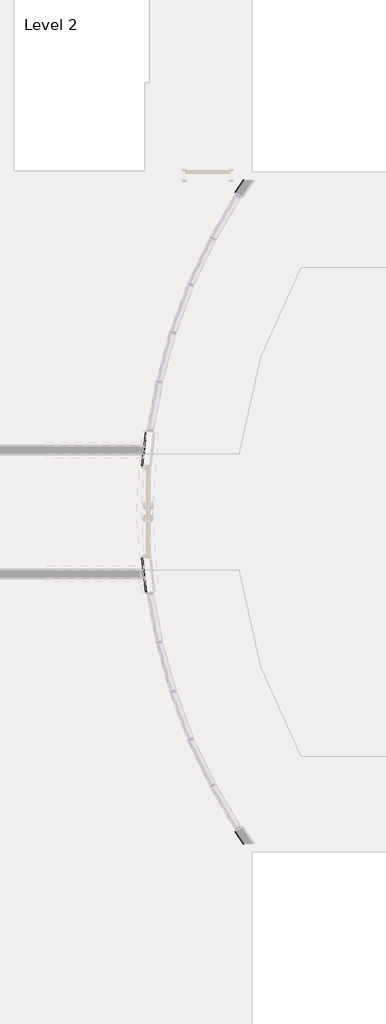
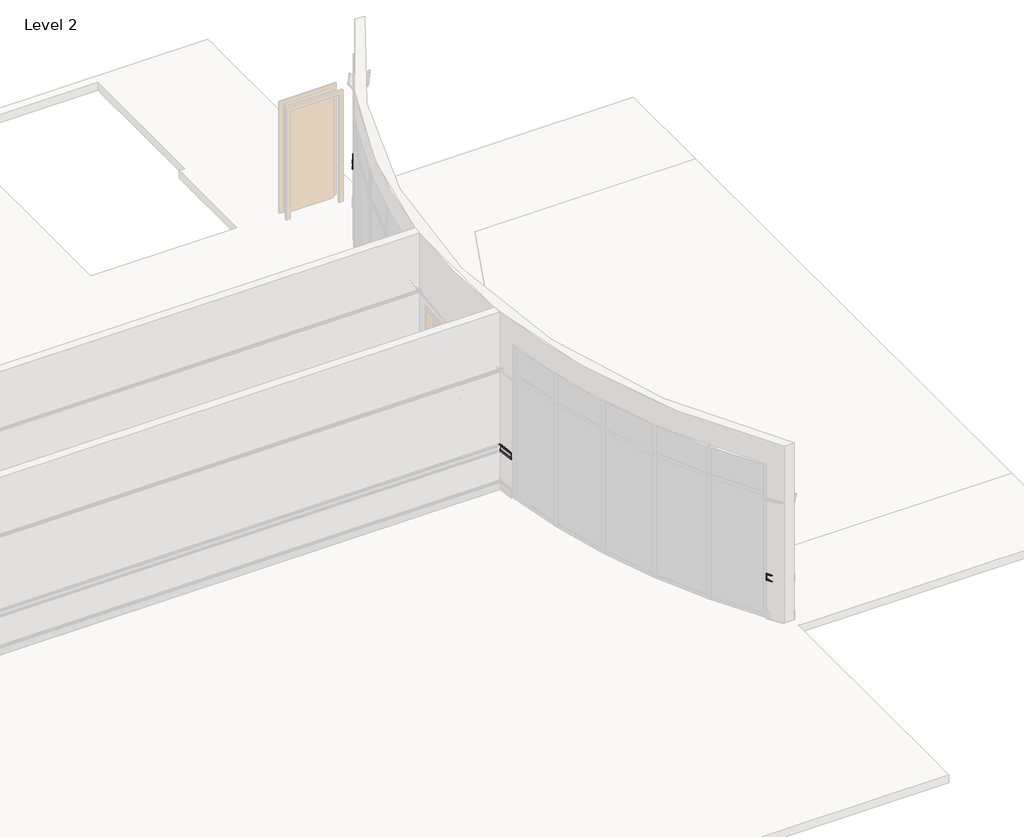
# One storey, part 11 of 14: 1 proxy.
"""IFC4 building model written with IfcOpenShell, lengths in millimetres."""

from ifc_helpers import new_model, si_unit, point, frame, origin, place, context, project, spatial, polyline, circle_curve, ellipse_curve, trimmed, element, save
from ifc_brep_helpers import plane_surface, cylinder_surface, revolved_surface, advanced_brep

model = new_model("IFC4")

# Units and contexts
model_context = context("Model", 3, world=origin())
ifc_project = project(units=[si_unit("LENGTHUNIT", "METRE", prefix="MILLI")], contexts=[model_context])

# Site, building, storey
site = spatial("IfcSite", under=ifc_project)
building = spatial("IfcBuilding", under=site)
storey = spatial("IfcBuildingStorey", under=building, Name="Level 2", Elevation=3657.6)

# Proxy
placement = place(None, origin())
element("IfcBuildingElementProxy", 1, Name="Wall Sweeps", at=placement, inside=storey, context=model_context, shape_type="AdvancedBrep", body=[
    advanced_brep(
    [(12531.4483746, -9207.1313595, 4438.65), (12532.7782615, -9206.2644357, 4437.0625), (12532.7782615, -9206.2644357, 4419.6), (12515.4897311, -9217.5344454, 4419.6), (12515.4897311, -9217.5344454, 4438.65), (12517.4845615, -9216.2340597, 4438.65), (12518.398731, -9215.6381328, 4444.9601121), (12521.6900333, -9213.4926058, 4453.73125), (12523.4690528, -9212.3329024, 4453.73125), (12523.4690528, -9212.3329024, 4525.16875), (12521.6900333, -9213.4926058, 4525.16875), (12518.398731, -9215.6381328, 4533.9398879), (12517.4845615, -9216.2340597, 4540.25), (12515.4897311, -9217.5344454, 4540.25), (12515.4897311, -9217.5344454, 4559.3), (12532.7782615, -9206.2644357, 4559.3), (12532.7782615, -9206.2644357, 4541.8375), (12531.4483746, -9207.1313595, 4540.25), (12707.4018476, -9469.5992739, 4438.65), (12707.4018476, -9469.5992739, 4540.25), (12708.7089721, -9468.6983956, 4541.8375), (12708.7089721, -9468.6983956, 4559.3), (12691.716353, -9480.4098132, 4559.3), (12691.716353, -9480.4098132, 4540.25), (12693.6770398, -9479.0584958, 4540.25), (12694.5755624, -9478.4392286, 4533.9398879), (12697.8105306, -9476.2096686, 4525.16875), (12699.5591003, -9475.0045436, 4525.16875), (12699.5591003, -9475.0045436, 4453.73125), (12697.8105306, -9476.2096686, 4453.73125), (12694.5755624, -9478.4392286, 4444.9601121), (12693.6770398, -9479.0584958, 4438.65), (12691.716353, -9480.4098132, 4438.65), (12691.716353, -9480.4098132, 4419.6), (12708.7089721, -9468.6983956, 4419.6), (12708.7089721, -9468.6983956, 4437.0625)],
    [
        (0, 1),
        (1, 2),
        (2, 3),
        (3, 4),
        (4, 5),
        (5, 6, circle_curve(frame((12521.6900333, -9213.4926058, 4441.03125), z_axis=(-0.5460937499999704, 0.8377240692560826, 0.0), x_axis=(-0.8377240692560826, -0.5460937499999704, 0.0)), 5.55625)),
        (6, 7, circle_curve(frame((12511.875522, -9219.8904682, 4453.7135672), z_axis=(0.5460937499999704, -0.8377240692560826, 0.0), x_axis=(-0.8377240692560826, -0.5460937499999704, 0.0)), 11.7156984)),
        (7, 8),
        (8, 9),
        (9, 10),
        (10, 11, circle_curve(frame((12511.875522, -9219.8904682, 4525.1864328), z_axis=(0.5460937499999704, -0.8377240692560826, 0.0), x_axis=(-0.8377240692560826, -0.5460937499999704, 0.0)), 11.7156984)),
        (11, 12, circle_curve(frame((12521.6900333, -9213.4926058, 4537.86875), z_axis=(-0.5460937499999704, 0.8377240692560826, 0.0), x_axis=(-0.8377240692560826, -0.5460937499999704, 0.0)), 5.55625)),
        (12, 13),
        (13, 14),
        (14, 15),
        (15, 16),
        (16, 17),
        (17, 0),
        (18, 19),
        (19, 20),
        (20, 21),
        (21, 22),
        (22, 23),
        (23, 24),
        (24, 25, circle_curve(frame((12697.8105306, -9476.2096686, 4537.86875), z_axis=(0.5674823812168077, -0.8233855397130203, 0.0), x_axis=(-0.8233855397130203, -0.5674823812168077, 0.0)), 5.55625)),
        (25, 26, circle_curve(frame((12688.1640049, -9482.8581134, 4525.1864328), z_axis=(-0.5674823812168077, 0.8233855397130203, 0.0), x_axis=(-0.8233855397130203, -0.5674823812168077, 0.0)), 11.7156984)),
        (26, 27),
        (27, 28),
        (28, 29),
        (29, 30, circle_curve(frame((12688.1640049, -9482.8581134, 4453.7135672), z_axis=(-0.5674823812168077, 0.8233855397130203, 0.0), x_axis=(-0.8233855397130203, -0.5674823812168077, 0.0)), 11.7156984)),
        (30, 31, circle_curve(frame((12697.8105306, -9476.2096686, 4441.03125), z_axis=(0.5674823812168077, -0.8233855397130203, 0.0), x_axis=(-0.8233855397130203, -0.5674823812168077, 0.0)), 5.55625)),
        (31, 32),
        (32, 33),
        (33, 34),
        (34, 35),
        (35, 18),
        (35, 1, circle_curve(frame((22811.474575, -2505.8101681, 4437.0625), z_axis=(0.0, 0.0, -1.0), x_axis=(-0.837724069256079, -0.5460937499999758, 0.0)), 12269.7875)),
        (0, 18, circle_curve(frame((22811.474575, -2505.8101681, 4438.65), z_axis=(0.0, 0.0, 1.0), x_axis=(-0.837724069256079, -0.5460937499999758, 0.0)), 12271.375)),
        (34, 2, circle_curve(frame((22811.474575, -2505.8101681, 4419.6), z_axis=(0.0, 0.0, -1.0), x_axis=(-0.837724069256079, -0.5460937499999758, 0.0)), 12269.7875)),
        (33, 3, circle_curve(frame((22811.474575, -2505.8101681, 4419.6), z_axis=(0.0, 0.0, -1.0), x_axis=(-0.837724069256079, -0.5460937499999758, 0.0)), 12290.425)),
        (32, 4, circle_curve(frame((22811.474575, -2505.8101681, 4438.65), z_axis=(0.0, 0.0, -1.0), x_axis=(-0.837724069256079, -0.5460937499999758, 0.0)), 12290.425)),
        (31, 5, circle_curve(frame((22811.474575, -2505.8101681, 4438.65), z_axis=(0.0, 0.0, -1.0), x_axis=(-0.837724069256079, -0.5460937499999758, 0.0)), 12288.04375)),
        (30, 6, circle_curve(frame((22811.474575, -2505.8101681, 4444.9601121), z_axis=(0.0, 0.0, -1.0), x_axis=(-0.837724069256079, -0.5460937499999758, 0.0)), 12286.9524963)),
        (29, 7, circle_curve(frame((22811.474575, -2505.8101681, 4453.73125), z_axis=(0.0, 0.0, -1.0), x_axis=(-0.837724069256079, -0.5460937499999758, 0.0)), 12283.0236342)),
        (28, 8, circle_curve(frame((22811.474575, -2505.8101681, 4453.73125), z_axis=(0.0, 0.0, -1.0), x_axis=(-0.837724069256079, -0.5460937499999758, 0.0)), 12280.9)),
        (27, 9, circle_curve(frame((22811.474575, -2505.8101681, 4525.16875), z_axis=(0.0, 0.0, -1.0), x_axis=(-0.837724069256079, -0.5460937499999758, 0.0)), 12280.9)),
        (26, 10, circle_curve(frame((22811.474575, -2505.8101681, 4525.16875), z_axis=(0.0, 0.0, -1.0), x_axis=(-0.837724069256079, -0.5460937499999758, 0.0)), 12283.0236342)),
        (25, 11, circle_curve(frame((22811.474575, -2505.8101681, 4533.9398879), z_axis=(0.0, 0.0, -1.0), x_axis=(-0.837724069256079, -0.5460937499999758, 0.0)), 12286.9524963)),
        (24, 12, circle_curve(frame((22811.474575, -2505.8101681, 4540.25), z_axis=(0.0, 0.0, -1.0), x_axis=(-0.837724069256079, -0.5460937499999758, 0.0)), 12288.04375)),
        (23, 13, circle_curve(frame((22811.474575, -2505.8101681, 4540.25), z_axis=(0.0, 0.0, -1.0), x_axis=(-0.837724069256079, -0.5460937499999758, 0.0)), 12290.425)),
        (22, 14, circle_curve(frame((22811.474575, -2505.8101681, 4559.3), z_axis=(0.0, 0.0, -1.0), x_axis=(-0.837724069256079, -0.5460937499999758, 0.0)), 12290.425)),
        (21, 15, circle_curve(frame((22811.474575, -2505.8101681, 4559.3), z_axis=(0.0, 0.0, -1.0), x_axis=(-0.837724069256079, -0.5460937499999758, 0.0)), 12269.7875)),
        (20, 16, circle_curve(frame((22811.474575, -2505.8101681, 4541.8375), z_axis=(0.0, 0.0, -1.0), x_axis=(-0.837724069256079, -0.5460937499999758, 0.0)), 12269.7875)),
        (19, 17, circle_curve(frame((22811.474575, -2505.8101681, 4540.25), z_axis=(0.0, 0.0, -1.0), x_axis=(-0.837724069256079, -0.5460937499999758, 0.0)), 12271.375)),
    ],
    [
        plane_surface(frame((22811.474575, -2505.8101681, 4419.6), z_axis=(-0.5460937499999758, 0.837724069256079, 0.0), x_axis=(-0.837724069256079, -0.5460937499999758, 0.0))),
        plane_surface(frame((22811.474575, -2505.8101681, 4419.6), z_axis=(0.5674823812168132, -0.8233855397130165, 0.0), x_axis=(-0.8233855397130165, -0.5674823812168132, 0.0))),
        revolved_surface(polyline([(12531.4483746, -9207.1313595, 4438.65), (12532.7782615, -9206.2644357, 4437.0625)]), (22811.474575, -2505.8101681, 4419.6), (0.0, 0.0, 1.0)),
        revolved_surface(polyline([(12532.778261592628, -9206.26443567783, 4437.0625), (12532.778261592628, -9206.26443567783, 4419.6)]), (22811.474575, -2505.8101681, 4419.6), (0.0, 0.0, 1.0)),
        plane_surface(frame((22811.474575, -2505.8101681, 4419.6), z_axis=(0.0, 0.0, -1.0), x_axis=(-0.837724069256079, -0.5460937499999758, 0.0))),
        cylinder_surface(frame((22811.474575, -2505.8101681, 4419.6), z_axis=(0.0, 0.0, 1.0), x_axis=(-0.837724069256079, -0.5460937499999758, 0.0)), 12290.425),
        plane_surface(frame((22811.474575, -2505.8101681, 4438.65), z_axis=(0.0, 0.0, 1.0), x_axis=(-0.837724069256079, -0.5460937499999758, 0.0))),
        revolved_surface(trimmed(ellipse_curve(frame((12521.6900333, -9213.4926058, 4441.03125), z_axis=(-0.5460937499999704, 0.8377240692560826, 0.0), x_axis=(-0.8377240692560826, -0.5460937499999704, 0.0)), 5.55625, 5.55625), [point((12517.4845615, -9216.2340597, 4438.65))], [point((12518.398731, -9215.6381328, 4444.9601121))], True, "CARTESIAN"), (22811.474575, -2505.8101681, 4419.6), (0.0, 0.0, 1.0)),
        revolved_surface(trimmed(ellipse_curve(frame((12511.875522, -9219.8904682, 4453.7135672), z_axis=(0.5460937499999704, -0.8377240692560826, 0.0), x_axis=(-0.8377240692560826, -0.5460937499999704, 0.0)), 11.7156984, 11.7156984), [point((12518.398731, -9215.6381328, 4444.9601121))], [point((12521.6900333, -9213.4926058, 4453.73125))], True, "CARTESIAN"), (22811.474575, -2505.8101681, 4419.6), (0.0, 0.0, 1.0)),
        plane_surface(frame((22811.474575, -2505.8101681, 4453.73125), z_axis=(0.0, 0.0, 1.0), x_axis=(-0.837724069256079, -0.5460937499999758, 0.0))),
        cylinder_surface(frame((22811.474575, -2505.8101681, 4419.6), z_axis=(0.0, 0.0, 1.0), x_axis=(-0.837724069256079, -0.5460937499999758, 0.0)), 12280.9),
        plane_surface(frame((22811.474575, -2505.8101681, 4525.16875), z_axis=(0.0, 0.0, -1.0), x_axis=(-0.837724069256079, -0.5460937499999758, 0.0))),
        revolved_surface(trimmed(ellipse_curve(frame((12511.875522, -9219.8904682, 4525.1864328), z_axis=(0.5460937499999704, -0.8377240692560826, 0.0), x_axis=(-0.8377240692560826, -0.5460937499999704, 0.0)), 11.7156984, 11.7156984), [point((12521.6900333, -9213.4926058, 4525.16875))], [point((12518.398731, -9215.6381328, 4533.9398879))], True, "CARTESIAN"), (22811.474575, -2505.8101681, 4419.6), (0.0, 0.0, 1.0)),
        revolved_surface(trimmed(ellipse_curve(frame((12521.6900333, -9213.4926058, 4537.86875), z_axis=(-0.5460937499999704, 0.8377240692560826, 0.0), x_axis=(-0.8377240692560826, -0.5460937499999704, 0.0)), 5.55625, 5.55625), [point((12518.398731, -9215.6381328, 4533.9398879))], [point((12517.4845615, -9216.2340597, 4540.25))], True, "CARTESIAN"), (22811.474575, -2505.8101681, 4419.6), (0.0, 0.0, 1.0)),
        plane_surface(frame((22811.474575, -2505.8101681, 4540.25), z_axis=(0.0, 0.0, -1.0), x_axis=(-0.837724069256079, -0.5460937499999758, 0.0))),
        plane_surface(frame((22811.474575, -2505.8101681, 4559.3), z_axis=(0.0, 0.0, 1.0), x_axis=(-0.837724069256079, -0.5460937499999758, 0.0))),
        revolved_surface(polyline([(12532.778261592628, -9206.26443567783, 4559.3), (12532.778261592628, -9206.26443567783, 4541.8375)]), (22811.474575, -2505.8101681, 4419.6), (0.0, 0.0, 1.0)),
        revolved_surface(polyline([(12532.7782615, -9206.2644357, 4541.8375), (12531.4483746, -9207.1313595, 4540.25)]), (22811.474575, -2505.8101681, 4419.6), (0.0, 0.0, 1.0)),
        revolved_surface(polyline([(12531.448374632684, -9207.131359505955, 4540.25), (12531.448374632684, -9207.131359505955, 4438.65)]), (22811.474575, -2505.8101681, 4419.6), (0.0, 0.0, 1.0)),
    ],
    [
        (0, [[1, 2, 3, 4, 5, 6, 7, 8, 9, 10, 11, 12, 13, 14, 15, 16, 17, 18]]),
        (1, [[19, 20, 21, 22, 23, 24, 25, 26, 27, 28, 29, 30, 31, 32, 33, 34, 35, 36]]),
        (2, [[37, -1, 38, -36]]),
        (3, [[39, -2, -37, -35]]),
        (4, [[40, -3, -39, -34]]),
        (5, [[41, -4, -40, -33]]),
        (6, [[42, -5, -41, -32]]),
        (7, [[43, -6, -42, -31]]),
        (8, [[44, -7, -43, -30]]),
        (9, [[45, -8, -44, -29]]),
        (10, [[46, -9, -45, -28]]),
        (11, [[47, -10, -46, -27]]),
        (12, [[48, -11, -47, -26]]),
        (13, [[49, -12, -48, -25]]),
        (14, [[50, -13, -49, -24]]),
        (5, [[51, -14, -50, -23]]),
        (15, [[52, -15, -51, -22]]),
        (16, [[53, -16, -52, -21]]),
        (17, [[54, -17, -53, -20]]),
        (18, [[-38, -18, -54, -19]]),
    ],
),
    advanced_brep(
    [(10578.1270255, -3471.1350484, 4438.65), (10579.709606, -3471.0101681, 4437.0625), (10579.709606, -3471.0101681, 4419.6), (10559.136059, -3472.6336122, 4419.6), (10559.136059, -3472.6336122, 4438.65), (10561.5099299, -3472.4462918, 4438.65), (10562.5978019, -3472.3604485, 4444.9601121), (10566.5144889, -3472.0513855, 4453.73125), (10568.6315423, -3471.8843303, 4453.73125), (10568.6315423, -3471.8843303, 4525.16875), (10566.5144889, -3472.0513855, 4525.16875), (10562.5978019, -3472.3604485, 4533.9398879), (10561.5099299, -3472.4462918, 4540.25), (10559.136059, -3472.6336122, 4540.25), (10559.136059, -3472.6336122, 4559.3), (10579.709606, -3471.0101681, 4559.3), (10579.709606, -3471.0101681, 4541.8375), (10578.1270255, -3471.1350484, 4540.25), (10657.1000031, -4196.3199011, 4438.65), (10657.1000031, -4196.3199011, 4540.25), (10658.6723672, -4196.1012065, 4541.8375), (10658.6723672, -4196.1012065, 4559.3), (10638.2316338, -4198.9442371, 4559.3), (10638.2316338, -4198.9442371, 4540.25), (10640.5901799, -4198.6161951, 4540.25), (10641.6710292, -4198.4658635, 4533.9398879), (10645.5624318, -4197.9246218, 4525.16875), (10647.6658184, -4197.6320691, 4525.16875), (10647.6658184, -4197.6320691, 4453.73125), (10645.5624318, -4197.9246218, 4453.73125), (10641.6710292, -4198.4658635, 4444.9601121), (10640.5901799, -4198.6161951, 4438.65), (10638.2316338, -4198.9442371, 4438.65), (10638.2316338, -4198.9442371, 4419.6), (10658.6723672, -4196.1012065, 4419.6), (10658.6723672, -4196.1012065, 4437.0625)],
    [
        (0, 1),
        (1, 2),
        (2, 3),
        (3, 4),
        (4, 5),
        (5, 6, circle_curve(frame((10566.5144889, -3472.0513855, 4441.03125), z_axis=(-0.0786647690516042, 0.9969011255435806, 0.0), x_axis=(-0.9969011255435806, -0.0786647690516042, 0.0)), 5.55625)),
        (6, 7, circle_curve(frame((10554.8351093, -3472.9729972, 4453.7135672), z_axis=(0.0786647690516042, -0.9969011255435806, 0.0), x_axis=(-0.9969011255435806, -0.0786647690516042, 0.0)), 11.7156984)),
        (7, 8),
        (8, 9),
        (9, 10),
        (10, 11, circle_curve(frame((10554.8351093, -3472.9729972, 4525.1864328), z_axis=(0.0786647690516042, -0.9969011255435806, 0.0), x_axis=(-0.9969011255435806, -0.0786647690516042, 0.0)), 11.7156984)),
        (11, 12, circle_curve(frame((10566.5144889, -3472.0513855, 4537.86875), z_axis=(-0.0786647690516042, 0.9969011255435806, 0.0), x_axis=(-0.9969011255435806, -0.0786647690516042, 0.0)), 5.55625)),
        (12, 13),
        (13, 14),
        (14, 15),
        (15, 16),
        (16, 17),
        (17, 0),
        (18, 19),
        (19, 20),
        (20, 21),
        (21, 22),
        (22, 23),
        (23, 24),
        (24, 25, circle_curve(frame((10645.5624318, -4197.9246218, 4537.86875), z_axis=(0.13776041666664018, -0.990465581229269, 0.0), x_axis=(-0.990465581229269, -0.13776041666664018, 0.0)), 5.55625)),
        (25, 26, circle_curve(frame((10633.958449, -4199.5385795, 4525.1864328), z_axis=(-0.13776041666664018, 0.990465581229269, 0.0), x_axis=(-0.990465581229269, -0.13776041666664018, 0.0)), 11.7156984)),
        (26, 27),
        (27, 28),
        (28, 29),
        (29, 30, circle_curve(frame((10633.958449, -4199.5385795, 4453.7135672), z_axis=(-0.13776041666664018, 0.990465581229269, 0.0), x_axis=(-0.990465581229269, -0.13776041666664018, 0.0)), 11.7156984)),
        (30, 31, circle_curve(frame((10645.5624318, -4197.9246218, 4441.03125), z_axis=(0.13776041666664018, -0.990465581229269, 0.0), x_axis=(-0.990465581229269, -0.13776041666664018, 0.0)), 5.55625)),
        (31, 32),
        (32, 33),
        (33, 34),
        (34, 35),
        (35, 18),
        (35, 1, circle_curve(frame((22811.474575, -2505.8101681, 4437.0625), z_axis=(0.0, 0.0, -1.0), x_axis=(-0.99690112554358, -0.07866476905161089, 0.0)), 12269.7875)),
        (0, 18, circle_curve(frame((22811.474575, -2505.8101681, 4438.65), z_axis=(0.0, 0.0, 1.0), x_axis=(-0.99690112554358, -0.07866476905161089, 0.0)), 12271.375)),
        (34, 2, circle_curve(frame((22811.474575, -2505.8101681, 4419.6), z_axis=(0.0, 0.0, -1.0), x_axis=(-0.99690112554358, -0.07866476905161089, 0.0)), 12269.7875)),
        (33, 3, circle_curve(frame((22811.474575, -2505.8101681, 4419.6), z_axis=(0.0, 0.0, -1.0), x_axis=(-0.99690112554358, -0.07866476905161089, 0.0)), 12290.425)),
        (32, 4, circle_curve(frame((22811.474575, -2505.8101681, 4438.65), z_axis=(0.0, 0.0, -1.0), x_axis=(-0.99690112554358, -0.07866476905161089, 0.0)), 12290.425)),
        (31, 5, circle_curve(frame((22811.474575, -2505.8101681, 4438.65), z_axis=(0.0, 0.0, -1.0), x_axis=(-0.99690112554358, -0.07866476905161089, 0.0)), 12288.04375)),
        (30, 6, circle_curve(frame((22811.474575, -2505.8101681, 4444.9601121), z_axis=(0.0, 0.0, -1.0), x_axis=(-0.99690112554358, -0.07866476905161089, 0.0)), 12286.9524963)),
        (29, 7, circle_curve(frame((22811.474575, -2505.8101681, 4453.73125), z_axis=(0.0, 0.0, -1.0), x_axis=(-0.99690112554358, -0.07866476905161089, 0.0)), 12283.0236342)),
        (28, 8, circle_curve(frame((22811.474575, -2505.8101681, 4453.73125), z_axis=(0.0, 0.0, -1.0), x_axis=(-0.99690112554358, -0.07866476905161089, 0.0)), 12280.9)),
        (27, 9, circle_curve(frame((22811.474575, -2505.8101681, 4525.16875), z_axis=(0.0, 0.0, -1.0), x_axis=(-0.99690112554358, -0.07866476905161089, 0.0)), 12280.9)),
        (26, 10, circle_curve(frame((22811.474575, -2505.8101681, 4525.16875), z_axis=(0.0, 0.0, -1.0), x_axis=(-0.99690112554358, -0.07866476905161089, 0.0)), 12283.0236342)),
        (25, 11, circle_curve(frame((22811.474575, -2505.8101681, 4533.9398879), z_axis=(0.0, 0.0, -1.0), x_axis=(-0.99690112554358, -0.07866476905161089, 0.0)), 12286.9524963)),
        (24, 12, circle_curve(frame((22811.474575, -2505.8101681, 4540.25), z_axis=(0.0, 0.0, -1.0), x_axis=(-0.99690112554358, -0.07866476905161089, 0.0)), 12288.04375)),
        (23, 13, circle_curve(frame((22811.474575, -2505.8101681, 4540.25), z_axis=(0.0, 0.0, -1.0), x_axis=(-0.99690112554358, -0.07866476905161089, 0.0)), 12290.425)),
        (22, 14, circle_curve(frame((22811.474575, -2505.8101681, 4559.3), z_axis=(0.0, 0.0, -1.0), x_axis=(-0.99690112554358, -0.07866476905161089, 0.0)), 12290.425)),
        (21, 15, circle_curve(frame((22811.474575, -2505.8101681, 4559.3), z_axis=(0.0, 0.0, -1.0), x_axis=(-0.99690112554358, -0.07866476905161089, 0.0)), 12269.7875)),
        (20, 16, circle_curve(frame((22811.474575, -2505.8101681, 4541.8375), z_axis=(0.0, 0.0, -1.0), x_axis=(-0.99690112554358, -0.07866476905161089, 0.0)), 12269.7875)),
        (19, 17, circle_curve(frame((22811.474575, -2505.8101681, 4540.25), z_axis=(0.0, 0.0, -1.0), x_axis=(-0.99690112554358, -0.07866476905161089, 0.0)), 12271.375)),
    ],
    [
        plane_surface(frame((22811.474575, -2505.8101681, 4419.6), z_axis=(-0.07866476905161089, 0.99690112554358, 0.0), x_axis=(-0.99690112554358, -0.07866476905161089, 0.0))),
        plane_surface(frame((22811.474575, -2505.8101681, 4419.6), z_axis=(0.1377604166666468, -0.9904655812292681, 0.0), x_axis=(-0.9904655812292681, -0.1377604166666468, 0.0))),
        revolved_surface(polyline([(10578.1270255, -3471.1350484, 4438.65), (10579.709606, -3471.0101681, 4437.0625)]), (22811.474575, -2505.8101681, 4419.6), (0.0, 0.0, 1.0)),
        revolved_surface(polyline([(10579.709606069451, -3471.0101680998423, 4437.0625), (10579.709606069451, -3471.0101680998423, 4419.6)]), (22811.474575, -2505.8101681, 4419.6), (0.0, 0.0, 1.0)),
        plane_surface(frame((22811.474575, -2505.8101681, 4419.6), z_axis=(0.0, 0.0, -1.0), x_axis=(-0.99690112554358, -0.07866476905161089, 0.0))),
        cylinder_surface(frame((22811.474575, -2505.8101681, 4419.6), z_axis=(0.0, 0.0, 1.0), x_axis=(-0.99690112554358, -0.07866476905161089, 0.0)), 12290.425),
        plane_surface(frame((22811.474575, -2505.8101681, 4438.65), z_axis=(0.0, 0.0, 1.0), x_axis=(-0.99690112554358, -0.07866476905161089, 0.0))),
        revolved_surface(trimmed(ellipse_curve(frame((10566.5144889, -3472.0513855, 4441.03125), z_axis=(-0.0786647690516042, 0.9969011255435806, 0.0), x_axis=(-0.9969011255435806, -0.0786647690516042, 0.0)), 5.55625, 5.55625), [point((10561.5099299, -3472.4462918, 4438.65))], [point((10562.5978019, -3472.3604485, 4444.9601121))], True, "CARTESIAN"), (22811.474575, -2505.8101681, 4419.6), (0.0, 0.0, 1.0)),
        revolved_surface(trimmed(ellipse_curve(frame((10554.8351093, -3472.9729972, 4453.7135672), z_axis=(0.0786647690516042, -0.9969011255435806, 0.0), x_axis=(-0.9969011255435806, -0.0786647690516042, 0.0)), 11.7156984, 11.7156984), [point((10562.5978019, -3472.3604485, 4444.9601121))], [point((10566.5144889, -3472.0513855, 4453.73125))], True, "CARTESIAN"), (22811.474575, -2505.8101681, 4419.6), (0.0, 0.0, 1.0)),
        plane_surface(frame((22811.474575, -2505.8101681, 4453.73125), z_axis=(0.0, 0.0, 1.0), x_axis=(-0.99690112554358, -0.07866476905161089, 0.0))),
        cylinder_surface(frame((22811.474575, -2505.8101681, 4419.6), z_axis=(0.0, 0.0, 1.0), x_axis=(-0.99690112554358, -0.07866476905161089, 0.0)), 12280.9),
        plane_surface(frame((22811.474575, -2505.8101681, 4525.16875), z_axis=(0.0, 0.0, -1.0), x_axis=(-0.99690112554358, -0.07866476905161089, 0.0))),
        revolved_surface(trimmed(ellipse_curve(frame((10554.8351093, -3472.9729972, 4525.1864328), z_axis=(0.0786647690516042, -0.9969011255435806, 0.0), x_axis=(-0.9969011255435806, -0.0786647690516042, 0.0)), 11.7156984, 11.7156984), [point((10566.5144889, -3472.0513855, 4525.16875))], [point((10562.5978019, -3472.3604485, 4533.9398879))], True, "CARTESIAN"), (22811.474575, -2505.8101681, 4419.6), (0.0, 0.0, 1.0)),
        revolved_surface(trimmed(ellipse_curve(frame((10566.5144889, -3472.0513855, 4537.86875), z_axis=(-0.0786647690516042, 0.9969011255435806, 0.0), x_axis=(-0.9969011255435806, -0.0786647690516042, 0.0)), 5.55625, 5.55625), [point((10562.5978019, -3472.3604485, 4533.9398879))], [point((10561.5099299, -3472.4462918, 4540.25))], True, "CARTESIAN"), (22811.474575, -2505.8101681, 4419.6), (0.0, 0.0, 1.0)),
        plane_surface(frame((22811.474575, -2505.8101681, 4540.25), z_axis=(0.0, 0.0, -1.0), x_axis=(-0.99690112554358, -0.07866476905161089, 0.0))),
        plane_surface(frame((22811.474575, -2505.8101681, 4559.3), z_axis=(0.0, 0.0, 1.0), x_axis=(-0.99690112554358, -0.07866476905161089, 0.0))),
        revolved_surface(polyline([(10579.709606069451, -3471.0101680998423, 4559.3), (10579.709606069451, -3471.0101680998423, 4541.8375)]), (22811.474575, -2505.8101681, 4419.6), (0.0, 0.0, 1.0)),
        revolved_surface(polyline([(10579.709606, -3471.0101681, 4541.8375), (10578.1270255, -3471.1350484, 4540.25)]), (22811.474575, -2505.8101681, 4419.6), (0.0, 0.0, 1.0)),
        revolved_surface(polyline([(10578.12702553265, -3471.1350484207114, 4540.25), (10578.12702553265, -3471.1350484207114, 4438.65)]), (22811.474575, -2505.8101681, 4419.6), (0.0, 0.0, 1.0)),
    ],
    [
        (0, [[1, 2, 3, 4, 5, 6, 7, 8, 9, 10, 11, 12, 13, 14, 15, 16, 17, 18]]),
        (1, [[19, 20, 21, 22, 23, 24, 25, 26, 27, 28, 29, 30, 31, 32, 33, 34, 35, 36]]),
        (2, [[37, -1, 38, -36]]),
        (3, [[39, -2, -37, -35]]),
        (4, [[40, -3, -39, -34]]),
        (5, [[41, -4, -40, -33]]),
        (6, [[42, -5, -41, -32]]),
        (7, [[43, -6, -42, -31]]),
        (8, [[44, -7, -43, -30]]),
        (9, [[45, -8, -44, -29]]),
        (10, [[46, -9, -45, -28]]),
        (11, [[47, -10, -46, -27]]),
        (12, [[48, -11, -47, -26]]),
        (13, [[49, -12, -48, -25]]),
        (14, [[50, -13, -49, -24]]),
        (5, [[51, -14, -50, -23]]),
        (15, [[52, -15, -51, -22]]),
        (16, [[53, -16, -52, -21]]),
        (17, [[54, -17, -53, -20]]),
        (18, [[-38, -18, -54, -19]]),
    ],
),
    advanced_brep(
    [(10657.1000031, -815.300435, 4438.65), (10658.6723672, -815.5191297, 4437.0625), (10658.6723672, -815.5191297, 4419.6), (10638.2316338, -812.6760991, 4419.6), (10638.2316338, -812.6760991, 4438.65), (10640.5901799, -813.0041411, 4438.65), (10641.6710292, -813.1544726, 4444.9601121), (10645.5624318, -813.6957143, 4453.73125), (10647.6658184, -813.988267, 4453.73125), (10647.6658184, -813.988267, 4525.16875), (10645.5624318, -813.6957143, 4525.16875), (10641.6710292, -813.1544726, 4533.9398879), (10640.5901799, -813.0041411, 4540.25), (10638.2316338, -812.6760991, 4540.25), (10638.2316338, -812.6760991, 4559.3), (10658.6723672, -815.5191297, 4559.3), (10658.6723672, -815.5191297, 4541.8375), (10657.1000031, -815.300435, 4540.25), (10578.1270255, -1540.4852878, 4438.65), (10578.1270255, -1540.4852878, 4540.25), (10579.709606, -1540.6101681, 4541.8375), (10579.709606, -1540.6101681, 4559.3), (10559.136059, -1538.9867239, 4559.3), (10559.136059, -1538.9867239, 4540.25), (10561.5099299, -1539.1740444, 4540.25), (10562.5978019, -1539.2598876, 4533.9398879), (10566.5144889, -1539.5689506, 4525.16875), (10568.6315423, -1539.7360058, 4525.16875), (10568.6315423, -1539.7360058, 4453.73125), (10566.5144889, -1539.5689506, 4453.73125), (10562.5978019, -1539.2598876, 4444.9601121), (10561.5099299, -1539.1740444, 4438.65), (10559.136059, -1538.9867239, 4438.65), (10559.136059, -1538.9867239, 4419.6), (10579.709606, -1540.6101681, 4419.6), (10579.709606, -1540.6101681, 4437.0625)],
    [
        (0, 1),
        (1, 2),
        (2, 3),
        (3, 4),
        (4, 5),
        (5, 6, circle_curve(frame((10645.5624318, -813.6957143, 4441.03125), z_axis=(0.13776041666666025, 0.9904655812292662, 0.0), x_axis=(-0.9904655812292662, 0.13776041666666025, 0.0)), 5.55625)),
        (6, 7, circle_curve(frame((10633.958449, -812.0817566, 4453.7135672), z_axis=(-0.13776041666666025, -0.9904655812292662, 0.0), x_axis=(-0.9904655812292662, 0.13776041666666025, 0.0)), 11.7156984)),
        (7, 8),
        (8, 9),
        (9, 10),
        (10, 11, circle_curve(frame((10633.958449, -812.0817566, 4525.1864328), z_axis=(-0.13776041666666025, -0.9904655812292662, 0.0), x_axis=(-0.9904655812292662, 0.13776041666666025, 0.0)), 11.7156984)),
        (11, 12, circle_curve(frame((10645.5624318, -813.6957143, 4537.86875), z_axis=(0.13776041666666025, 0.9904655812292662, 0.0), x_axis=(-0.9904655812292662, 0.13776041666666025, 0.0)), 5.55625)),
        (12, 13),
        (13, 14),
        (14, 15),
        (15, 16),
        (16, 17),
        (17, 0),
        (18, 19),
        (19, 20),
        (20, 21),
        (21, 22),
        (22, 23),
        (23, 24),
        (24, 25, circle_curve(frame((10566.5144889, -1539.5689506, 4537.86875), z_axis=(-0.07866476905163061, -0.9969011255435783, 0.0), x_axis=(-0.9969011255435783, 0.07866476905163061, 0.0)), 5.55625)),
        (25, 26, circle_curve(frame((10554.8351093, -1538.647339, 4525.1864328), z_axis=(0.07866476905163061, 0.9969011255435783, 0.0), x_axis=(-0.9969011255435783, 0.07866476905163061, 0.0)), 11.7156984)),
        (26, 27),
        (27, 28),
        (28, 29),
        (29, 30, circle_curve(frame((10554.8351093, -1538.647339, 4453.7135672), z_axis=(0.07866476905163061, 0.9969011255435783, 0.0), x_axis=(-0.9969011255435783, 0.07866476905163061, 0.0)), 11.7156984)),
        (30, 31, circle_curve(frame((10566.5144889, -1539.5689506, 4441.03125), z_axis=(-0.07866476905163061, -0.9969011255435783, 0.0), x_axis=(-0.9969011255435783, 0.07866476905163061, 0.0)), 5.55625)),
        (31, 32),
        (32, 33),
        (33, 34),
        (34, 35),
        (35, 18),
        (35, 1, circle_curve(frame((22811.474575, -2505.8101681, 4437.0625), z_axis=(0.0, 0.0, -1.0), x_axis=(-0.9904655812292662, 0.13776041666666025, 0.0)), 12269.7875)),
        (0, 18, circle_curve(frame((22811.474575, -2505.8101681, 4438.65), z_axis=(0.0, 0.0, 1.0), x_axis=(-0.9904655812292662, 0.13776041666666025, 0.0)), 12271.375)),
        (34, 2, circle_curve(frame((22811.474575, -2505.8101681, 4419.6), z_axis=(0.0, 0.0, -1.0), x_axis=(-0.9904655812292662, 0.13776041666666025, 0.0)), 12269.7875)),
        (33, 3, circle_curve(frame((22811.474575, -2505.8101681, 4419.6), z_axis=(0.0, 0.0, -1.0), x_axis=(-0.9904655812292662, 0.13776041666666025, 0.0)), 12290.425)),
        (32, 4, circle_curve(frame((22811.474575, -2505.8101681, 4438.65), z_axis=(0.0, 0.0, -1.0), x_axis=(-0.9904655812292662, 0.13776041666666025, 0.0)), 12290.425)),
        (31, 5, circle_curve(frame((22811.474575, -2505.8101681, 4438.65), z_axis=(0.0, 0.0, -1.0), x_axis=(-0.9904655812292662, 0.13776041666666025, 0.0)), 12288.04375)),
        (30, 6, circle_curve(frame((22811.474575, -2505.8101681, 4444.9601121), z_axis=(0.0, 0.0, -1.0), x_axis=(-0.9904655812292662, 0.13776041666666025, 0.0)), 12286.9524963)),
        (29, 7, circle_curve(frame((22811.474575, -2505.8101681, 4453.73125), z_axis=(0.0, 0.0, -1.0), x_axis=(-0.9904655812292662, 0.13776041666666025, 0.0)), 12283.0236342)),
        (28, 8, circle_curve(frame((22811.474575, -2505.8101681, 4453.73125), z_axis=(0.0, 0.0, -1.0), x_axis=(-0.9904655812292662, 0.13776041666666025, 0.0)), 12280.9)),
        (27, 9, circle_curve(frame((22811.474575, -2505.8101681, 4525.16875), z_axis=(0.0, 0.0, -1.0), x_axis=(-0.9904655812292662, 0.13776041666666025, 0.0)), 12280.9)),
        (26, 10, circle_curve(frame((22811.474575, -2505.8101681, 4525.16875), z_axis=(0.0, 0.0, -1.0), x_axis=(-0.9904655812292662, 0.13776041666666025, 0.0)), 12283.0236342)),
        (25, 11, circle_curve(frame((22811.474575, -2505.8101681, 4533.9398879), z_axis=(0.0, 0.0, -1.0), x_axis=(-0.9904655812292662, 0.13776041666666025, 0.0)), 12286.9524963)),
        (24, 12, circle_curve(frame((22811.474575, -2505.8101681, 4540.25), z_axis=(0.0, 0.0, -1.0), x_axis=(-0.9904655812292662, 0.13776041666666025, 0.0)), 12288.04375)),
        (23, 13, circle_curve(frame((22811.474575, -2505.8101681, 4540.25), z_axis=(0.0, 0.0, -1.0), x_axis=(-0.9904655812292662, 0.13776041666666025, 0.0)), 12290.425)),
        (22, 14, circle_curve(frame((22811.474575, -2505.8101681, 4559.3), z_axis=(0.0, 0.0, -1.0), x_axis=(-0.9904655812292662, 0.13776041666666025, 0.0)), 12290.425)),
        (21, 15, circle_curve(frame((22811.474575, -2505.8101681, 4559.3), z_axis=(0.0, 0.0, -1.0), x_axis=(-0.9904655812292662, 0.13776041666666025, 0.0)), 12269.7875)),
        (20, 16, circle_curve(frame((22811.474575, -2505.8101681, 4541.8375), z_axis=(0.0, 0.0, -1.0), x_axis=(-0.9904655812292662, 0.13776041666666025, 0.0)), 12269.7875)),
        (19, 17, circle_curve(frame((22811.474575, -2505.8101681, 4540.25), z_axis=(0.0, 0.0, -1.0), x_axis=(-0.9904655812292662, 0.13776041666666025, 0.0)), 12271.375)),
    ],
    [
        plane_surface(frame((22811.474575, -2505.8101681, 4419.6), z_axis=(0.13776041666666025, 0.9904655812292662, 0.0), x_axis=(-0.9904655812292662, 0.13776041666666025, 0.0))),
        plane_surface(frame((22811.474575, -2505.8101681, 4419.6), z_axis=(-0.07866476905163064, -0.9969011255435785, 0.0), x_axis=(-0.9969011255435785, 0.07866476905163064, 0.0))),
        revolved_surface(polyline([(10657.1000031, -815.300435, 4438.65), (10658.6723672, -815.5191297, 4437.0625)]), (22811.474575, -2505.8101681, 4419.6), (0.0, 0.0, 1.0)),
        revolved_surface(polyline([(10658.672367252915, -815.5191296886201, 4437.0625), (10658.672367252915, -815.5191296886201, 4419.6)]), (22811.474575, -2505.8101681, 4419.6), (0.0, 0.0, 1.0)),
        plane_surface(frame((22811.474575, -2505.8101681, 4419.6), z_axis=(0.0, 0.0, -1.0), x_axis=(-0.9904655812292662, 0.13776041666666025, 0.0))),
        cylinder_surface(frame((22811.474575, -2505.8101681, 4419.6), z_axis=(0.0, 0.0, 1.0), x_axis=(-0.9904655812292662, 0.13776041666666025, 0.0)), 12290.425),
        plane_surface(frame((22811.474575, -2505.8101681, 4438.65), z_axis=(0.0, 0.0, 1.0), x_axis=(-0.9904655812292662, 0.13776041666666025, 0.0))),
        revolved_surface(trimmed(ellipse_curve(frame((10645.5624318, -813.6957143, 4441.03125), z_axis=(0.13776041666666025, 0.9904655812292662, 0.0), x_axis=(-0.9904655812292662, 0.13776041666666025, 0.0)), 5.55625, 5.55625), [point((10640.5901799, -813.0041411, 4438.65))], [point((10641.6710292, -813.1544726, 4444.9601121))], True, "CARTESIAN"), (22811.474575, -2505.8101681, 4419.6), (0.0, 0.0, 1.0)),
        revolved_surface(trimmed(ellipse_curve(frame((10633.958449, -812.0817566, 4453.7135672), z_axis=(-0.13776041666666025, -0.9904655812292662, 0.0), x_axis=(-0.9904655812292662, 0.13776041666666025, 0.0)), 11.7156984, 11.7156984), [point((10641.6710292, -813.1544726, 4444.9601121))], [point((10645.5624318, -813.6957143, 4453.73125))], True, "CARTESIAN"), (22811.474575, -2505.8101681, 4419.6), (0.0, 0.0, 1.0)),
        plane_surface(frame((22811.474575, -2505.8101681, 4453.73125), z_axis=(0.0, 0.0, 1.0), x_axis=(-0.9904655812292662, 0.13776041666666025, 0.0))),
        cylinder_surface(frame((22811.474575, -2505.8101681, 4419.6), z_axis=(0.0, 0.0, 1.0), x_axis=(-0.9904655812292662, 0.13776041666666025, 0.0)), 12280.9),
        plane_surface(frame((22811.474575, -2505.8101681, 4525.16875), z_axis=(0.0, 0.0, -1.0), x_axis=(-0.9904655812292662, 0.13776041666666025, 0.0))),
        revolved_surface(trimmed(ellipse_curve(frame((10633.958449, -812.0817566, 4525.1864328), z_axis=(-0.13776041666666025, -0.9904655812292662, 0.0), x_axis=(-0.9904655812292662, 0.13776041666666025, 0.0)), 11.7156984, 11.7156984), [point((10645.5624318, -813.6957143, 4525.16875))], [point((10641.6710292, -813.1544726, 4533.9398879))], True, "CARTESIAN"), (22811.474575, -2505.8101681, 4419.6), (0.0, 0.0, 1.0)),
        revolved_surface(trimmed(ellipse_curve(frame((10645.5624318, -813.6957143, 4537.86875), z_axis=(0.13776041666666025, 0.9904655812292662, 0.0), x_axis=(-0.9904655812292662, 0.13776041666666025, 0.0)), 5.55625, 5.55625), [point((10641.6710292, -813.1544726, 4533.9398879))], [point((10640.5901799, -813.0041411, 4540.25))], True, "CARTESIAN"), (22811.474575, -2505.8101681, 4419.6), (0.0, 0.0, 1.0)),
        plane_surface(frame((22811.474575, -2505.8101681, 4540.25), z_axis=(0.0, 0.0, -1.0), x_axis=(-0.9904655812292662, 0.13776041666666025, 0.0))),
        plane_surface(frame((22811.474575, -2505.8101681, 4559.3), z_axis=(0.0, 0.0, 1.0), x_axis=(-0.9904655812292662, 0.13776041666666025, 0.0))),
        revolved_surface(polyline([(10658.672367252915, -815.5191296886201, 4559.3), (10658.672367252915, -815.5191296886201, 4541.8375)]), (22811.474575, -2505.8101681, 4419.6), (0.0, 0.0, 1.0)),
        revolved_surface(polyline([(10658.6723672, -815.5191297, 4541.8375), (10657.1000031, -815.300435, 4540.25)]), (22811.474575, -2505.8101681, 4419.6), (0.0, 0.0, 1.0)),
        revolved_surface(polyline([(10657.100003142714, -815.3004350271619, 4540.25), (10657.100003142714, -815.3004350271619, 4438.65)]), (22811.474575, -2505.8101681, 4419.6), (0.0, 0.0, 1.0)),
    ],
    [
        (0, [[1, 2, 3, 4, 5, 6, 7, 8, 9, 10, 11, 12, 13, 14, 15, 16, 17, 18]]),
        (1, [[19, 20, 21, 22, 23, 24, 25, 26, 27, 28, 29, 30, 31, 32, 33, 34, 35, 36]]),
        (2, [[37, -1, 38, -36]]),
        (3, [[39, -2, -37, -35]]),
        (4, [[40, -3, -39, -34]]),
        (5, [[41, -4, -40, -33]]),
        (6, [[42, -5, -41, -32]]),
        (7, [[43, -6, -42, -31]]),
        (8, [[44, -7, -43, -30]]),
        (9, [[45, -8, -44, -29]]),
        (10, [[46, -9, -45, -28]]),
        (11, [[47, -10, -46, -27]]),
        (12, [[48, -11, -47, -26]]),
        (13, [[49, -12, -48, -25]]),
        (14, [[50, -13, -49, -24]]),
        (5, [[51, -14, -50, -23]]),
        (15, [[52, -15, -51, -22]]),
        (16, [[53, -16, -52, -21]]),
        (17, [[54, -17, -53, -20]]),
        (18, [[-38, -18, -54, -19]]),
    ],
),
    advanced_brep(
    [(12707.3238013, 4457.8656956, 4438.65), (12708.6309359, 4456.9648319, 4437.0625), (12708.6309359, 4456.9648319, 4419.6), (12691.6381856, 4468.6760591, 4419.6), (12691.6381856, 4468.6760591, 4438.65), (12693.5988876, 4467.3247637, 4438.65), (12694.497417, 4466.7055065, 4444.9601121), (12697.7324102, 4464.4759827, 4453.73125), (12699.4809934, 4463.2708773, 4453.73125), (12699.4809934, 4463.2708773, 4525.16875), (12697.7324102, 4464.4759827, 4525.16875), (12694.497417, 4466.7055065, 4533.9398879), (12693.5988876, 4467.3247637, 4540.25), (12691.6381856, 4468.6760591, 4540.25), (12691.6381856, 4468.6760591, 4559.3), (12708.6309359, 4456.9648319, 4559.3), (12708.6309359, 4456.9648319, 4541.8375), (12707.3238013, 4457.8656956, 4540.25), (12531.4483746, 4195.5110233, 4438.65), (12531.4483746, 4195.5110233, 4540.25), (12532.7782615, 4194.6440995, 4541.8375), (12532.7782615, 4194.6440995, 4559.3), (12515.4897311, 4205.9141093, 4559.3), (12515.4897311, 4205.9141093, 4540.25), (12517.4845615, 4204.6137235, 4540.25), (12518.398731, 4204.0177967, 4533.9398879), (12521.6900333, 4201.8722697, 4525.16875), (12523.4690528, 4200.7125663, 4525.16875), (12523.4690528, 4200.7125663, 4453.73125), (12521.6900333, 4201.8722697, 4453.73125), (12518.398731, 4204.0177967, 4444.9601121), (12517.4845615, 4204.6137235, 4438.65), (12515.4897311, 4205.9141093, 4438.65), (12515.4897311, 4205.9141093, 4419.6), (12532.7782615, 4194.6440995, 4419.6), (12532.7782615, 4194.6440995, 4437.0625)],
    [
        (0, 1),
        (1, 2),
        (2, 3),
        (3, 4),
        (4, 5),
        (5, 6, circle_curve(frame((12697.7324102, 4464.4759827, 4441.03125), z_axis=(0.5674731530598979, 0.8233918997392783, 0.0), x_axis=(-0.8233918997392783, 0.5674731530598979, 0.0)), 5.55625)),
        (6, 7, circle_curve(frame((12688.0858101, 4471.1243195, 4453.7135672), z_axis=(-0.5674731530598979, -0.8233918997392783, 0.0), x_axis=(-0.8233918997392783, 0.5674731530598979, 0.0)), 11.7156984)),
        (7, 8),
        (8, 9),
        (9, 10),
        (10, 11, circle_curve(frame((12688.0858101, 4471.1243195, 4525.1864328), z_axis=(-0.5674731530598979, -0.8233918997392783, 0.0), x_axis=(-0.8233918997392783, 0.5674731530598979, 0.0)), 11.7156984)),
        (11, 12, circle_curve(frame((12697.7324102, 4464.4759827, 4537.86875), z_axis=(0.5674731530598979, 0.8233918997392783, 0.0), x_axis=(-0.8233918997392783, 0.5674731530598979, 0.0)), 5.55625)),
        (12, 13),
        (13, 14),
        (14, 15),
        (15, 16),
        (16, 17),
        (17, 0),
        (18, 19),
        (19, 20),
        (20, 21),
        (21, 22),
        (22, 23),
        (23, 24),
        (24, 25, circle_curve(frame((12521.6900333, 4201.8722697, 4537.86875), z_axis=(-0.5460937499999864, -0.837724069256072, 0.0), x_axis=(-0.837724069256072, 0.5460937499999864, 0.0)), 5.55625)),
        (25, 26, circle_curve(frame((12511.875522, 4208.2701321, 4525.1864328), z_axis=(0.5460937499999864, 0.837724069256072, 0.0), x_axis=(-0.837724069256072, 0.5460937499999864, 0.0)), 11.7156984)),
        (26, 27),
        (27, 28),
        (28, 29),
        (29, 30, circle_curve(frame((12511.875522, 4208.2701321, 4453.7135672), z_axis=(0.5460937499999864, 0.837724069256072, 0.0), x_axis=(-0.837724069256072, 0.5460937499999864, 0.0)), 11.7156984)),
        (30, 31, circle_curve(frame((12521.6900333, 4201.8722697, 4441.03125), z_axis=(-0.5460937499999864, -0.837724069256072, 0.0), x_axis=(-0.837724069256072, 0.5460937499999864, 0.0)), 5.55625)),
        (31, 32),
        (32, 33),
        (33, 34),
        (34, 35),
        (35, 18),
        (35, 1, circle_curve(frame((22811.474575, -2505.8101681, 4437.0625), z_axis=(0.0, 0.0, -1.0), x_axis=(-0.8233918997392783, 0.5674731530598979, 0.0)), 12269.7875)),
        (0, 18, circle_curve(frame((22811.474575, -2505.8101681, 4438.65), z_axis=(0.0, 0.0, 1.0), x_axis=(-0.8233918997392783, 0.5674731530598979, 0.0)), 12271.375)),
        (34, 2, circle_curve(frame((22811.474575, -2505.8101681, 4419.6), z_axis=(0.0, 0.0, -1.0), x_axis=(-0.8233918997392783, 0.5674731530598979, 0.0)), 12269.7875)),
        (33, 3, circle_curve(frame((22811.474575, -2505.8101681, 4419.6), z_axis=(0.0, 0.0, -1.0), x_axis=(-0.8233918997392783, 0.5674731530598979, 0.0)), 12290.425)),
        (32, 4, circle_curve(frame((22811.474575, -2505.8101681, 4438.65), z_axis=(0.0, 0.0, -1.0), x_axis=(-0.8233918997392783, 0.5674731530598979, 0.0)), 12290.425)),
        (31, 5, circle_curve(frame((22811.474575, -2505.8101681, 4438.65), z_axis=(0.0, 0.0, -1.0), x_axis=(-0.8233918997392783, 0.5674731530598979, 0.0)), 12288.04375)),
        (30, 6, circle_curve(frame((22811.474575, -2505.8101681, 4444.9601121), z_axis=(0.0, 0.0, -1.0), x_axis=(-0.8233918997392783, 0.5674731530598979, 0.0)), 12286.9524963)),
        (29, 7, circle_curve(frame((22811.474575, -2505.8101681, 4453.73125), z_axis=(0.0, 0.0, -1.0), x_axis=(-0.8233918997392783, 0.5674731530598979, 0.0)), 12283.0236342)),
        (28, 8, circle_curve(frame((22811.474575, -2505.8101681, 4453.73125), z_axis=(0.0, 0.0, -1.0), x_axis=(-0.8233918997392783, 0.5674731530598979, 0.0)), 12280.9)),
        (27, 9, circle_curve(frame((22811.474575, -2505.8101681, 4525.16875), z_axis=(0.0, 0.0, -1.0), x_axis=(-0.8233918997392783, 0.5674731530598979, 0.0)), 12280.9)),
        (26, 10, circle_curve(frame((22811.474575, -2505.8101681, 4525.16875), z_axis=(0.0, 0.0, -1.0), x_axis=(-0.8233918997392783, 0.5674731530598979, 0.0)), 12283.0236342)),
        (25, 11, circle_curve(frame((22811.474575, -2505.8101681, 4533.9398879), z_axis=(0.0, 0.0, -1.0), x_axis=(-0.8233918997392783, 0.5674731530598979, 0.0)), 12286.9524963)),
        (24, 12, circle_curve(frame((22811.474575, -2505.8101681, 4540.25), z_axis=(0.0, 0.0, -1.0), x_axis=(-0.8233918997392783, 0.5674731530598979, 0.0)), 12288.04375)),
        (23, 13, circle_curve(frame((22811.474575, -2505.8101681, 4540.25), z_axis=(0.0, 0.0, -1.0), x_axis=(-0.8233918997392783, 0.5674731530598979, 0.0)), 12290.425)),
        (22, 14, circle_curve(frame((22811.474575, -2505.8101681, 4559.3), z_axis=(0.0, 0.0, -1.0), x_axis=(-0.8233918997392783, 0.5674731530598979, 0.0)), 12290.425)),
        (21, 15, circle_curve(frame((22811.474575, -2505.8101681, 4559.3), z_axis=(0.0, 0.0, -1.0), x_axis=(-0.8233918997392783, 0.5674731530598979, 0.0)), 12269.7875)),
        (20, 16, circle_curve(frame((22811.474575, -2505.8101681, 4541.8375), z_axis=(0.0, 0.0, -1.0), x_axis=(-0.8233918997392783, 0.5674731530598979, 0.0)), 12269.7875)),
        (19, 17, circle_curve(frame((22811.474575, -2505.8101681, 4540.25), z_axis=(0.0, 0.0, -1.0), x_axis=(-0.8233918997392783, 0.5674731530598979, 0.0)), 12271.375)),
    ],
    [
        plane_surface(frame((22811.474575, -2505.8101681, 4419.6), z_axis=(0.5674731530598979, 0.8233918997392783, 0.0), x_axis=(-0.8233918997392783, 0.5674731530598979, 0.0))),
        plane_surface(frame((22811.474575, -2505.8101681, 4419.6), z_axis=(-0.5460937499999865, -0.8377240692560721, 0.0), x_axis=(-0.8377240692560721, 0.5460937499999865, 0.0))),
        revolved_surface(polyline([(12707.3238013, 4457.8656956, 4438.65), (12708.6309359, 4456.9648319, 4437.0625)]), (22811.474575, -2505.8101681, 4419.6), (0.0, 0.0, 1.0)),
        revolved_surface(polyline([(12708.63093597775, 4456.964831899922, 4437.0625), (12708.63093597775, 4456.964831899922, 4419.6)]), (22811.474575, -2505.8101681, 4419.6), (0.0, 0.0, 1.0)),
        plane_surface(frame((22811.474575, -2505.8101681, 4419.6), z_axis=(0.0, 0.0, -1.0), x_axis=(-0.8233918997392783, 0.5674731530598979, 0.0))),
        cylinder_surface(frame((22811.474575, -2505.8101681, 4419.6), z_axis=(0.0, 0.0, 1.0), x_axis=(-0.8233918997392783, 0.5674731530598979, 0.0)), 12290.425),
        plane_surface(frame((22811.474575, -2505.8101681, 4438.65), z_axis=(0.0, 0.0, 1.0), x_axis=(-0.8233918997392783, 0.5674731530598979, 0.0))),
        revolved_surface(trimmed(ellipse_curve(frame((12697.7324102, 4464.4759827, 4441.03125), z_axis=(0.5674731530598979, 0.8233918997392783, 0.0), x_axis=(-0.8233918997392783, 0.5674731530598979, 0.0)), 5.55625, 5.55625), [point((12693.5988876, 4467.3247637, 4438.65))], [point((12694.497417, 4466.7055065, 4444.9601121))], True, "CARTESIAN"), (22811.474575, -2505.8101681, 4419.6), (0.0, 0.0, 1.0)),
        revolved_surface(trimmed(ellipse_curve(frame((12688.0858101, 4471.1243195, 4453.7135672), z_axis=(-0.5674731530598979, -0.8233918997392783, 0.0), x_axis=(-0.8233918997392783, 0.5674731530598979, 0.0)), 11.7156984, 11.7156984), [point((12694.497417, 4466.7055065, 4444.9601121))], [point((12697.7324102, 4464.4759827, 4453.73125))], True, "CARTESIAN"), (22811.474575, -2505.8101681, 4419.6), (0.0, 0.0, 1.0)),
        plane_surface(frame((22811.474575, -2505.8101681, 4453.73125), z_axis=(0.0, 0.0, 1.0), x_axis=(-0.8233918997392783, 0.5674731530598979, 0.0))),
        cylinder_surface(frame((22811.474575, -2505.8101681, 4419.6), z_axis=(0.0, 0.0, 1.0), x_axis=(-0.8233918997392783, 0.5674731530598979, 0.0)), 12280.9),
        plane_surface(frame((22811.474575, -2505.8101681, 4525.16875), z_axis=(0.0, 0.0, -1.0), x_axis=(-0.8233918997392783, 0.5674731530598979, 0.0))),
        revolved_surface(trimmed(ellipse_curve(frame((12688.0858101, 4471.1243195, 4525.1864328), z_axis=(-0.5674731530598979, -0.8233918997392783, 0.0), x_axis=(-0.8233918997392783, 0.5674731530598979, 0.0)), 11.7156984, 11.7156984), [point((12697.7324102, 4464.4759827, 4525.16875))], [point((12694.497417, 4466.7055065, 4533.9398879))], True, "CARTESIAN"), (22811.474575, -2505.8101681, 4419.6), (0.0, 0.0, 1.0)),
        revolved_surface(trimmed(ellipse_curve(frame((12697.7324102, 4464.4759827, 4537.86875), z_axis=(0.5674731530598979, 0.8233918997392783, 0.0), x_axis=(-0.8233918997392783, 0.5674731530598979, 0.0)), 5.55625, 5.55625), [point((12694.497417, 4466.7055065, 4533.9398879))], [point((12693.5988876, 4467.3247637, 4540.25))], True, "CARTESIAN"), (22811.474575, -2505.8101681, 4419.6), (0.0, 0.0, 1.0)),
        plane_surface(frame((22811.474575, -2505.8101681, 4540.25), z_axis=(0.0, 0.0, -1.0), x_axis=(-0.8233918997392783, 0.5674731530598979, 0.0))),
        plane_surface(frame((22811.474575, -2505.8101681, 4559.3), z_axis=(0.0, 0.0, 1.0), x_axis=(-0.8233918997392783, 0.5674731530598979, 0.0))),
        revolved_surface(polyline([(12708.63093597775, 4456.964831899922, 4559.3), (12708.63093597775, 4456.964831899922, 4541.8375)]), (22811.474575, -2505.8101681, 4419.6), (0.0, 0.0, 1.0)),
        revolved_surface(polyline([(12708.6309359, 4456.9648319, 4541.8375), (12707.3238013, 4457.8656956, 4540.25)]), (22811.474575, -2505.8101681, 4419.6), (0.0, 0.0, 1.0)),
        revolved_surface(polyline([(12707.323801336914, 4457.865695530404, 4540.25), (12707.323801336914, 4457.865695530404, 4438.65)]), (22811.474575, -2505.8101681, 4419.6), (0.0, 0.0, 1.0)),
    ],
    [
        (0, [[1, 2, 3, 4, 5, 6, 7, 8, 9, 10, 11, 12, 13, 14, 15, 16, 17, 18]]),
        (1, [[19, 20, 21, 22, 23, 24, 25, 26, 27, 28, 29, 30, 31, 32, 33, 34, 35, 36]]),
        (2, [[37, -1, 38, -36]]),
        (3, [[39, -2, -37, -35]]),
        (4, [[40, -3, -39, -34]]),
        (5, [[41, -4, -40, -33]]),
        (6, [[42, -5, -41, -32]]),
        (7, [[43, -6, -42, -31]]),
        (8, [[44, -7, -43, -30]]),
        (9, [[45, -8, -44, -29]]),
        (10, [[46, -9, -45, -28]]),
        (11, [[47, -10, -46, -27]]),
        (12, [[48, -11, -47, -26]]),
        (13, [[49, -12, -48, -25]]),
        (14, [[50, -13, -49, -24]]),
        (5, [[51, -14, -50, -23]]),
        (15, [[52, -15, -51, -22]]),
        (16, [[53, -16, -52, -21]]),
        (17, [[54, -17, -53, -20]]),
        (18, [[-38, -18, -54, -19]]),
    ],
),
])

save(model, "model.ifc")
